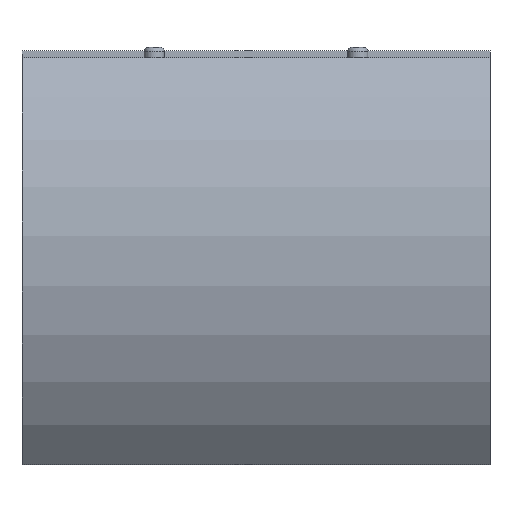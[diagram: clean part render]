
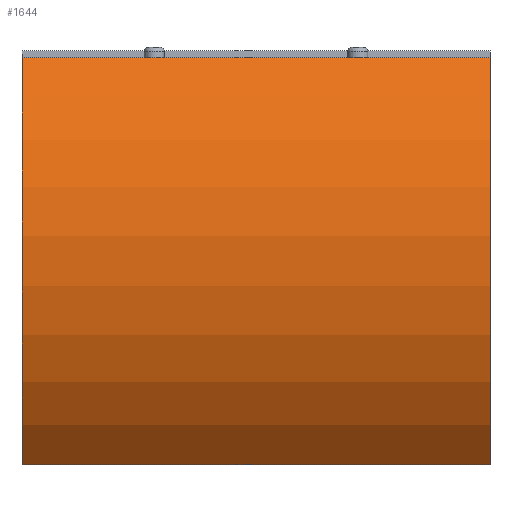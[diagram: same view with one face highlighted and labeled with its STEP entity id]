
A CAD part, front view. The second image highlights one B-rep face of the part: STEP entity #1644.
In plain terms, the highlighted cylindrical face has radius 147.705 mm (diameter 295.41 mm), a partial arc.
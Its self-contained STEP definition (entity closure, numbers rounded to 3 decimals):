
#56=LINE('',#2876,#129);
#73=LINE('',#3142,#146);
#129=VECTOR('',#2239,10.);
#146=VECTOR('',#2478,10.);
#372=CYLINDRICAL_SURFACE('',#1912,147.705);
#494=FACE_OUTER_BOUND('',#625,.T.);
#625=EDGE_LOOP('',(#1462,#1463,#1464,#1465));
#691=CIRCLE('',#1913,147.705);
#692=CIRCLE('',#1914,147.705);
#766=VERTEX_POINT('',#2874);
#767=VERTEX_POINT('',#2875);
#802=VERTEX_POINT('',#3140);
#803=VERTEX_POINT('',#3141);
#936=EDGE_CURVE('',#766,#767,#56,.T.);
#1025=EDGE_CURVE('',#802,#803,#73,.T.);
#1026=EDGE_CURVE('',#766,#803,#691,.T.);
#1027=EDGE_CURVE('',#802,#767,#692,.T.);
#1462=ORIENTED_EDGE('',*,*,#1025,.T.);
#1463=ORIENTED_EDGE('',*,*,#1026,.F.);
#1464=ORIENTED_EDGE('',*,*,#936,.T.);
#1465=ORIENTED_EDGE('',*,*,#1027,.F.);
#1644=ADVANCED_FACE('',(#494),#372,.T.);
#1912=AXIS2_PLACEMENT_3D('',#3139,#2476,#2477);
#1913=AXIS2_PLACEMENT_3D('',#3143,#2479,#2480);
#1914=AXIS2_PLACEMENT_3D('',#3144,#2481,#2482);
#2239=DIRECTION('',(-1.,0.,0.));
#2476=DIRECTION('center_axis',(1.,0.,0.));
#2477=DIRECTION('ref_axis',(0.,-0.736,0.677));
#2478=DIRECTION('',(1.,0.,0.));
#2479=DIRECTION('center_axis',(1.,0.,0.));
#2480=DIRECTION('ref_axis',(0.,-0.736,0.677));
#2481=DIRECTION('center_axis',(-1.,0.,0.));
#2482=DIRECTION('ref_axis',(0.,-0.736,0.677));
#2874=CARTESIAN_POINT('',(115.,0.,100.));
#2875=CARTESIAN_POINT('',(-115.,0.,100.));
#2876=CARTESIAN_POINT('',(0.,0.,100.));
#3139=CARTESIAN_POINT('Origin',(0.,108.705,0.));
#3140=CARTESIAN_POINT('',(-115.,0.,-100.));
#3141=CARTESIAN_POINT('',(115.,0.,-100.));
#3142=CARTESIAN_POINT('',(0.,0.,-100.));
#3143=CARTESIAN_POINT('Origin',(115.,108.705,0.));
#3144=CARTESIAN_POINT('Origin',(-115.,108.705,0.));
